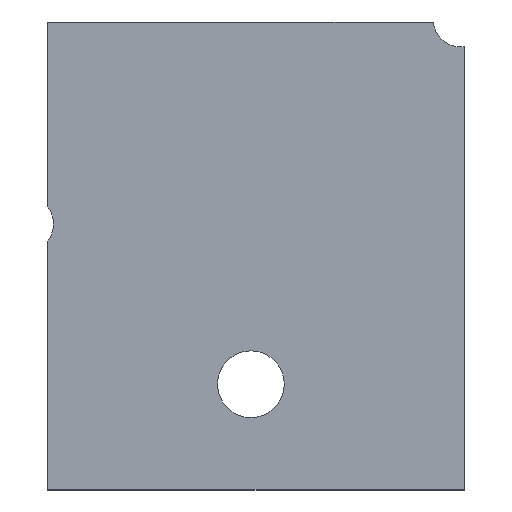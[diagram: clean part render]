
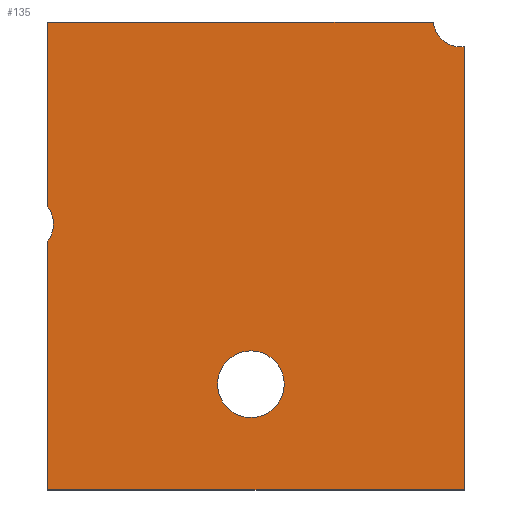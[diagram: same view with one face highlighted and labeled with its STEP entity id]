
A CAD part, top view. The second image highlights one B-rep face of the part: STEP entity #135.
In plain terms, the highlighted planar face has unit normal (0, 0, 1).
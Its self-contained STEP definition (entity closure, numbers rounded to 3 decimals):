
#21 = EDGE_CURVE('',#22,#24,#26,.T.);
#22 = VERTEX_POINT('',#23);
#23 = CARTESIAN_POINT('',(-15.25,6.25,14.3));
#24 = VERTEX_POINT('',#25);
#25 = CARTESIAN_POINT('',(-15.25,25.667,14.3));
#26 = SURFACE_CURVE('',#27,(#31,#43),.PCURVE_S1.);
#27 = LINE('',#28,#29);
#28 = CARTESIAN_POINT('',(-15.25,6.25,14.3));
#29 = VECTOR('',#30,1.);
#30 = DIRECTION('',(-0.,1.,0.));
#31 = PCURVE('',#32,#37);
#32 = PLANE('',#33);
#33 = AXIS2_PLACEMENT_3D('',#34,#35,#36);
#34 = CARTESIAN_POINT('',(-15.25,6.25,13.7));
#35 = DIRECTION('',(1.,0.,-0.));
#36 = DIRECTION('',(0.,0.,1.));
#37 = DEFINITIONAL_REPRESENTATION('',(#38),#42);
#38 = LINE('',#39,#40);
#39 = CARTESIAN_POINT('',(0.6,0.));
#40 = VECTOR('',#41,1.);
#41 = DIRECTION('',(0.,-1.));
#42 = ( GEOMETRIC_REPRESENTATION_CONTEXT(2) 
PARAMETRIC_REPRESENTATION_CONTEXT() REPRESENTATION_CONTEXT('2D SPACE',''
  ) );
#43 = PCURVE('',#44,#49);
#44 = PLANE('',#45);
#45 = AXIS2_PLACEMENT_3D('',#46,#47,#48);
#46 = CARTESIAN_POINT('',(-15.25,6.25,14.3));
#47 = DIRECTION('',(0.,0.,1.));
#48 = DIRECTION('',(1.,0.,-0.));
#49 = DEFINITIONAL_REPRESENTATION('',(#50),#54);
#50 = LINE('',#51,#52);
#51 = CARTESIAN_POINT('',(0.,0.));
#52 = VECTOR('',#53,1.);
#53 = DIRECTION('',(0.,1.));
#54 = ( GEOMETRIC_REPRESENTATION_CONTEXT(2) 
PARAMETRIC_REPRESENTATION_CONTEXT() REPRESENTATION_CONTEXT('2D SPACE',''
  ) );
#72 = PLANE('',#73);
#73 = AXIS2_PLACEMENT_3D('',#74,#75,#76);
#74 = CARTESIAN_POINT('',(-15.25,6.25,13.7));
#75 = DIRECTION('',(-0.,1.,0.));
#76 = DIRECTION('',(0.,0.,1.));
#125 = CYLINDRICAL_SURFACE('',#126,2.2);
#126 = AXIS2_PLACEMENT_3D('',#127,#128,#129);
#127 = CARTESIAN_POINT('',(-17.,27.,13.));
#128 = DIRECTION('',(0.,0.,1.));
#129 = DIRECTION('',(1.,0.,-0.));
#135 = ADVANCED_FACE('',(#136,#326),#44,.T.);
#136 = FACE_BOUND('',#137,.T.);
#137 = EDGE_LOOP('',(#138,#139,#162,#190,#219,#247,#275,#304));
#138 = ORIENTED_EDGE('',*,*,#21,.F.);
#139 = ORIENTED_EDGE('',*,*,#140,.T.);
#140 = EDGE_CURVE('',#22,#141,#143,.T.);
#141 = VERTEX_POINT('',#142);
#142 = CARTESIAN_POINT('',(17.25,6.25,14.3));
#143 = SURFACE_CURVE('',#144,(#148,#155),.PCURVE_S1.);
#144 = LINE('',#145,#146);
#145 = CARTESIAN_POINT('',(-15.25,6.25,14.3));
#146 = VECTOR('',#147,1.);
#147 = DIRECTION('',(1.,0.,-0.));
#148 = PCURVE('',#44,#149);
#149 = DEFINITIONAL_REPRESENTATION('',(#150),#154);
#150 = LINE('',#151,#152);
#151 = CARTESIAN_POINT('',(0.,0.));
#152 = VECTOR('',#153,1.);
#153 = DIRECTION('',(1.,0.));
#154 = ( GEOMETRIC_REPRESENTATION_CONTEXT(2) 
PARAMETRIC_REPRESENTATION_CONTEXT() REPRESENTATION_CONTEXT('2D SPACE',''
  ) );
#155 = PCURVE('',#72,#156);
#156 = DEFINITIONAL_REPRESENTATION('',(#157),#161);
#157 = LINE('',#158,#159);
#158 = CARTESIAN_POINT('',(0.6,0.));
#159 = VECTOR('',#160,1.);
#160 = DIRECTION('',(0.,1.));
#161 = ( GEOMETRIC_REPRESENTATION_CONTEXT(2) 
PARAMETRIC_REPRESENTATION_CONTEXT() REPRESENTATION_CONTEXT('2D SPACE',''
  ) );
#162 = ORIENTED_EDGE('',*,*,#163,.T.);
#163 = EDGE_CURVE('',#141,#164,#166,.T.);
#164 = VERTEX_POINT('',#165);
#165 = CARTESIAN_POINT('',(17.25,40.814,14.3));
#166 = SURFACE_CURVE('',#167,(#171,#178),.PCURVE_S1.);
#167 = LINE('',#168,#169);
#168 = CARTESIAN_POINT('',(17.25,6.25,14.3));
#169 = VECTOR('',#170,1.);
#170 = DIRECTION('',(-0.,1.,0.));
#171 = PCURVE('',#44,#172);
#172 = DEFINITIONAL_REPRESENTATION('',(#173),#177);
#173 = LINE('',#174,#175);
#174 = CARTESIAN_POINT('',(32.5,0.));
#175 = VECTOR('',#176,1.);
#176 = DIRECTION('',(0.,1.));
#177 = ( GEOMETRIC_REPRESENTATION_CONTEXT(2) 
PARAMETRIC_REPRESENTATION_CONTEXT() REPRESENTATION_CONTEXT('2D SPACE',''
  ) );
#178 = PCURVE('',#179,#184);
#179 = PLANE('',#180);
#180 = AXIS2_PLACEMENT_3D('',#181,#182,#183);
#181 = CARTESIAN_POINT('',(17.25,6.25,13.7));
#182 = DIRECTION('',(1.,0.,-0.));
#183 = DIRECTION('',(0.,0.,1.));
#184 = DEFINITIONAL_REPRESENTATION('',(#185),#189);
#185 = LINE('',#186,#187);
#186 = CARTESIAN_POINT('',(0.6,0.));
#187 = VECTOR('',#188,1.);
#188 = DIRECTION('',(0.,-1.));
#189 = ( GEOMETRIC_REPRESENTATION_CONTEXT(2) 
PARAMETRIC_REPRESENTATION_CONTEXT() REPRESENTATION_CONTEXT('2D SPACE',''
  ) );
#190 = ORIENTED_EDGE('',*,*,#191,.F.);
#191 = EDGE_CURVE('',#192,#164,#194,.T.);
#192 = VERTEX_POINT('',#193);
#193 = CARTESIAN_POINT('',(14.814,42.75,14.3));
#194 = SURFACE_CURVE('',#195,(#200,#207),.PCURVE_S1.);
#195 = CIRCLE('',#196,2.2);
#196 = AXIS2_PLACEMENT_3D('',#197,#198,#199);
#197 = CARTESIAN_POINT('',(17.,43.,14.3));
#198 = DIRECTION('',(0.,0.,1.));
#199 = DIRECTION('',(1.,0.,-0.));
#200 = PCURVE('',#44,#201);
#201 = DEFINITIONAL_REPRESENTATION('',(#202),#206);
#202 = CIRCLE('',#203,2.2);
#203 = AXIS2_PLACEMENT_2D('',#204,#205);
#204 = CARTESIAN_POINT('',(32.25,36.75));
#205 = DIRECTION('',(1.,0.));
#206 = ( GEOMETRIC_REPRESENTATION_CONTEXT(2) 
PARAMETRIC_REPRESENTATION_CONTEXT() REPRESENTATION_CONTEXT('2D SPACE',''
  ) );
#207 = PCURVE('',#208,#213);
#208 = CYLINDRICAL_SURFACE('',#209,2.2);
#209 = AXIS2_PLACEMENT_3D('',#210,#211,#212);
#210 = CARTESIAN_POINT('',(17.,43.,13.));
#211 = DIRECTION('',(0.,0.,1.));
#212 = DIRECTION('',(1.,0.,-0.));
#213 = DEFINITIONAL_REPRESENTATION('',(#214),#218);
#214 = LINE('',#215,#216);
#215 = CARTESIAN_POINT('',(0.,1.3));
#216 = VECTOR('',#217,1.);
#217 = DIRECTION('',(1.,0.));
#218 = ( GEOMETRIC_REPRESENTATION_CONTEXT(2) 
PARAMETRIC_REPRESENTATION_CONTEXT() REPRESENTATION_CONTEXT('2D SPACE',''
  ) );
#219 = ORIENTED_EDGE('',*,*,#220,.F.);
#220 = EDGE_CURVE('',#221,#192,#223,.T.);
#221 = VERTEX_POINT('',#222);
#222 = CARTESIAN_POINT('',(-15.25,42.75,14.3));
#223 = SURFACE_CURVE('',#224,(#228,#235),.PCURVE_S1.);
#224 = LINE('',#225,#226);
#225 = CARTESIAN_POINT('',(-15.25,42.75,14.3));
#226 = VECTOR('',#227,1.);
#227 = DIRECTION('',(1.,0.,-0.));
#228 = PCURVE('',#44,#229);
#229 = DEFINITIONAL_REPRESENTATION('',(#230),#234);
#230 = LINE('',#231,#232);
#231 = CARTESIAN_POINT('',(0.,36.5));
#232 = VECTOR('',#233,1.);
#233 = DIRECTION('',(1.,0.));
#234 = ( GEOMETRIC_REPRESENTATION_CONTEXT(2) 
PARAMETRIC_REPRESENTATION_CONTEXT() REPRESENTATION_CONTEXT('2D SPACE',''
  ) );
#235 = PCURVE('',#236,#241);
#236 = PLANE('',#237);
#237 = AXIS2_PLACEMENT_3D('',#238,#239,#240);
#238 = CARTESIAN_POINT('',(-15.25,42.75,13.7));
#239 = DIRECTION('',(-0.,1.,0.));
#240 = DIRECTION('',(0.,0.,1.));
#241 = DEFINITIONAL_REPRESENTATION('',(#242),#246);
#242 = LINE('',#243,#244);
#243 = CARTESIAN_POINT('',(0.6,0.));
#244 = VECTOR('',#245,1.);
#245 = DIRECTION('',(0.,1.));
#246 = ( GEOMETRIC_REPRESENTATION_CONTEXT(2) 
PARAMETRIC_REPRESENTATION_CONTEXT() REPRESENTATION_CONTEXT('2D SPACE',''
  ) );
#247 = ORIENTED_EDGE('',*,*,#248,.F.);
#248 = EDGE_CURVE('',#249,#221,#251,.T.);
#249 = VERTEX_POINT('',#250);
#250 = CARTESIAN_POINT('',(-15.25,28.333,14.3));
#251 = SURFACE_CURVE('',#252,(#256,#263),.PCURVE_S1.);
#252 = LINE('',#253,#254);
#253 = CARTESIAN_POINT('',(-15.25,6.25,14.3));
#254 = VECTOR('',#255,1.);
#255 = DIRECTION('',(-0.,1.,0.));
#256 = PCURVE('',#44,#257);
#257 = DEFINITIONAL_REPRESENTATION('',(#258),#262);
#258 = LINE('',#259,#260);
#259 = CARTESIAN_POINT('',(0.,0.));
#260 = VECTOR('',#261,1.);
#261 = DIRECTION('',(0.,1.));
#262 = ( GEOMETRIC_REPRESENTATION_CONTEXT(2) 
PARAMETRIC_REPRESENTATION_CONTEXT() REPRESENTATION_CONTEXT('2D SPACE',''
  ) );
#263 = PCURVE('',#264,#269);
#264 = PLANE('',#265);
#265 = AXIS2_PLACEMENT_3D('',#266,#267,#268);
#266 = CARTESIAN_POINT('',(-15.25,6.25,13.7));
#267 = DIRECTION('',(1.,0.,-0.));
#268 = DIRECTION('',(0.,0.,1.));
#269 = DEFINITIONAL_REPRESENTATION('',(#270),#274);
#270 = LINE('',#271,#272);
#271 = CARTESIAN_POINT('',(0.6,0.));
#272 = VECTOR('',#273,1.);
#273 = DIRECTION('',(0.,-1.));
#274 = ( GEOMETRIC_REPRESENTATION_CONTEXT(2) 
PARAMETRIC_REPRESENTATION_CONTEXT() REPRESENTATION_CONTEXT('2D SPACE',''
  ) );
#275 = ORIENTED_EDGE('',*,*,#276,.F.);
#276 = EDGE_CURVE('',#277,#249,#279,.T.);
#277 = VERTEX_POINT('',#278);
#278 = CARTESIAN_POINT('',(-14.8,27.,14.3));
#279 = SURFACE_CURVE('',#280,(#285,#292),.PCURVE_S1.);
#280 = CIRCLE('',#281,2.2);
#281 = AXIS2_PLACEMENT_3D('',#282,#283,#284);
#282 = CARTESIAN_POINT('',(-17.,27.,14.3));
#283 = DIRECTION('',(0.,0.,1.));
#284 = DIRECTION('',(1.,0.,-0.));
#285 = PCURVE('',#44,#286);
#286 = DEFINITIONAL_REPRESENTATION('',(#287),#291);
#287 = CIRCLE('',#288,2.2);
#288 = AXIS2_PLACEMENT_2D('',#289,#290);
#289 = CARTESIAN_POINT('',(-1.75,20.75));
#290 = DIRECTION('',(1.,0.));
#291 = ( GEOMETRIC_REPRESENTATION_CONTEXT(2) 
PARAMETRIC_REPRESENTATION_CONTEXT() REPRESENTATION_CONTEXT('2D SPACE',''
  ) );
#292 = PCURVE('',#293,#298);
#293 = CYLINDRICAL_SURFACE('',#294,2.2);
#294 = AXIS2_PLACEMENT_3D('',#295,#296,#297);
#295 = CARTESIAN_POINT('',(-17.,27.,13.));
#296 = DIRECTION('',(0.,0.,1.));
#297 = DIRECTION('',(1.,0.,-0.));
#298 = DEFINITIONAL_REPRESENTATION('',(#299),#303);
#299 = LINE('',#300,#301);
#300 = CARTESIAN_POINT('',(0.,1.3));
#301 = VECTOR('',#302,1.);
#302 = DIRECTION('',(1.,0.));
#303 = ( GEOMETRIC_REPRESENTATION_CONTEXT(2) 
PARAMETRIC_REPRESENTATION_CONTEXT() REPRESENTATION_CONTEXT('2D SPACE',''
  ) );
#304 = ORIENTED_EDGE('',*,*,#305,.F.);
#305 = EDGE_CURVE('',#24,#277,#306,.T.);
#306 = SURFACE_CURVE('',#307,(#312,#319),.PCURVE_S1.);
#307 = CIRCLE('',#308,2.2);
#308 = AXIS2_PLACEMENT_3D('',#309,#310,#311);
#309 = CARTESIAN_POINT('',(-17.,27.,14.3));
#310 = DIRECTION('',(0.,0.,1.));
#311 = DIRECTION('',(1.,0.,-0.));
#312 = PCURVE('',#44,#313);
#313 = DEFINITIONAL_REPRESENTATION('',(#314),#318);
#314 = CIRCLE('',#315,2.2);
#315 = AXIS2_PLACEMENT_2D('',#316,#317);
#316 = CARTESIAN_POINT('',(-1.75,20.75));
#317 = DIRECTION('',(1.,0.));
#318 = ( GEOMETRIC_REPRESENTATION_CONTEXT(2) 
PARAMETRIC_REPRESENTATION_CONTEXT() REPRESENTATION_CONTEXT('2D SPACE',''
  ) );
#319 = PCURVE('',#125,#320);
#320 = DEFINITIONAL_REPRESENTATION('',(#321),#325);
#321 = LINE('',#322,#323);
#322 = CARTESIAN_POINT('',(0.,1.3));
#323 = VECTOR('',#324,1.);
#324 = DIRECTION('',(1.,0.));
#325 = ( GEOMETRIC_REPRESENTATION_CONTEXT(2) 
PARAMETRIC_REPRESENTATION_CONTEXT() REPRESENTATION_CONTEXT('2D SPACE',''
  ) );
#326 = FACE_BOUND('',#327,.T.);
#327 = EDGE_LOOP('',(#328));
#328 = ORIENTED_EDGE('',*,*,#329,.F.);
#329 = EDGE_CURVE('',#330,#330,#332,.T.);
#330 = VERTEX_POINT('',#331);
#331 = CARTESIAN_POINT('',(3.2,14.5,14.3));
#332 = SURFACE_CURVE('',#333,(#338,#345),.PCURVE_S1.);
#333 = CIRCLE('',#334,2.6);
#334 = AXIS2_PLACEMENT_3D('',#335,#336,#337);
#335 = CARTESIAN_POINT('',(0.6,14.5,14.3));
#336 = DIRECTION('',(0.,0.,1.));
#337 = DIRECTION('',(1.,0.,-0.));
#338 = PCURVE('',#44,#339);
#339 = DEFINITIONAL_REPRESENTATION('',(#340),#344);
#340 = CIRCLE('',#341,2.6);
#341 = AXIS2_PLACEMENT_2D('',#342,#343);
#342 = CARTESIAN_POINT('',(15.85,8.25));
#343 = DIRECTION('',(1.,0.));
#344 = ( GEOMETRIC_REPRESENTATION_CONTEXT(2) 
PARAMETRIC_REPRESENTATION_CONTEXT() REPRESENTATION_CONTEXT('2D SPACE',''
  ) );
#345 = PCURVE('',#346,#351);
#346 = CYLINDRICAL_SURFACE('',#347,2.6);
#347 = AXIS2_PLACEMENT_3D('',#348,#349,#350);
#348 = CARTESIAN_POINT('',(0.6,14.5,13.));
#349 = DIRECTION('',(0.,0.,1.));
#350 = DIRECTION('',(1.,0.,-0.));
#351 = DEFINITIONAL_REPRESENTATION('',(#352),#356);
#352 = LINE('',#353,#354);
#353 = CARTESIAN_POINT('',(0.,1.3));
#354 = VECTOR('',#355,1.);
#355 = DIRECTION('',(1.,0.));
#356 = ( GEOMETRIC_REPRESENTATION_CONTEXT(2) 
PARAMETRIC_REPRESENTATION_CONTEXT() REPRESENTATION_CONTEXT('2D SPACE',''
  ) );
